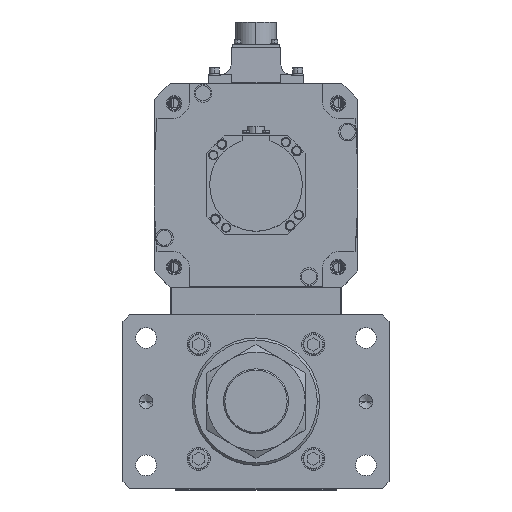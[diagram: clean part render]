
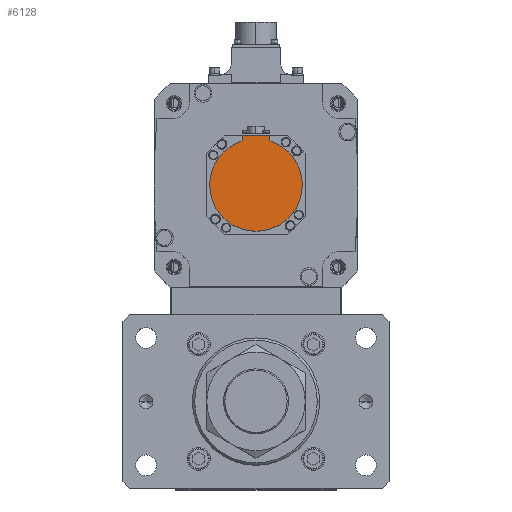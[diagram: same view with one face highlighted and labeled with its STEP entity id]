
A CAD part, top view. The second image highlights one B-rep face of the part: STEP entity #6128.
In plain terms, the highlighted planar face has unit normal (0, 0, 1) as drawn and (0, 0, -1) by its records, which use the part's own axes.
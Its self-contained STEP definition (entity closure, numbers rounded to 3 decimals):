
#216 = ORIENTED_EDGE ( 'NONE', *, *, #18827, .T. ) ;
#450 = VECTOR ( 'NONE', #40993, 1000. ) ;
#2014 = VERTEX_POINT ( 'NONE', #12677 ) ;
#2485 = LINE ( 'NONE', #6009, #25525 ) ;
#2775 = EDGE_CURVE ( 'NONE', #2014, #44889, #30622, .T. ) ;
#3469 = DIRECTION ( 'NONE',  ( 1., 0., 0. ) ) ;
#6009 = CARTESIAN_POINT ( 'NONE',  ( -12., -40.329, -162.5 ) ) ;
#6128 = ADVANCED_FACE ( 'NONE', ( #44913 ), #12564, .F. ) ;
#7033 = CIRCLE ( 'NONE', #52591, 40. ) ;
#8387 = EDGE_LOOP ( 'NONE', ( #216, #26194, #18122, #12434, #51585, #26013 ) ) ;
#10179 = AXIS2_PLACEMENT_3D ( 'NONE', #34629, #46703, #25870 ) ;
#10316 = VERTEX_POINT ( 'NONE', #22829 ) ;
#10941 = VERTEX_POINT ( 'NONE', #38686 ) ;
#11963 = DIRECTION ( 'NONE',  ( 0., 0., 1. ) ) ;
#12434 = ORIENTED_EDGE ( 'NONE', *, *, #45561, .F. ) ;
#12564 = PLANE ( 'NONE',  #42657 ) ;
#12677 = CARTESIAN_POINT ( 'NONE',  ( 12., -42.5, -162.5 ) ) ;
#12731 = CIRCLE ( 'NONE', #10179, 40. ) ;
#15619 = CARTESIAN_POINT ( 'NONE',  ( 0., -1.249, -162.5 ) ) ;
#17269 = AXIS2_PLACEMENT_3D ( 'NONE', #36492, #11963, #40575 ) ;
#18122 = ORIENTED_EDGE ( 'NONE', *, *, #46152, .F. ) ;
#18325 = DIRECTION ( 'NONE',  ( 0., 1., 0. ) ) ;
#18827 = EDGE_CURVE ( 'NONE', #44889, #10316, #2485, .T. ) ;
#19532 = EDGE_CURVE ( 'NONE', #10941, #10316, #48333, .T. ) ;
#22398 = DIRECTION ( 'NONE',  ( 0., 0., 1. ) ) ;
#22829 = CARTESIAN_POINT ( 'NONE',  ( -12., -38.158, -162.5 ) ) ;
#23014 = LINE ( 'NONE', #31668, #32055 ) ;
#25101 = DIRECTION ( 'NONE',  ( 0., 0., 1. ) ) ;
#25525 = VECTOR ( 'NONE', #18325, 1000. ) ;
#25870 = DIRECTION ( 'NONE',  ( 1., 0., 0. ) ) ;
#26013 = ORIENTED_EDGE ( 'NONE', *, *, #2775, .T. ) ;
#26107 = CARTESIAN_POINT ( 'NONE',  ( -12., -42.5, -162.5 ) ) ;
#26194 = ORIENTED_EDGE ( 'NONE', *, *, #19532, .F. ) ;
#27744 = VERTEX_POINT ( 'NONE', #45157 ) ;
#30622 = LINE ( 'NONE', #45406, #450 ) ;
#30676 = DIRECTION ( 'NONE',  ( 1., 0., 0. ) ) ;
#31668 = CARTESIAN_POINT ( 'NONE',  ( 12., -1.249, -162.5 ) ) ;
#32055 = VECTOR ( 'NONE', #51910, 1000. ) ;
#34053 = VERTEX_POINT ( 'NONE', #46543 ) ;
#34629 = CARTESIAN_POINT ( 'NONE',  ( 0., 0., -162.5 ) ) ;
#36492 = CARTESIAN_POINT ( 'NONE',  ( 0., 0., -162.5 ) ) ;
#38686 = CARTESIAN_POINT ( 'NONE',  ( -40., 0., -162.5 ) ) ;
#38843 = CARTESIAN_POINT ( 'NONE',  ( 0., 0., -162.5 ) ) ;
#40575 = DIRECTION ( 'NONE',  ( 1., 0., 0. ) ) ;
#40993 = DIRECTION ( 'NONE',  ( -1., 0., 0. ) ) ;
#42657 = AXIS2_PLACEMENT_3D ( 'NONE', #15619, #25101, #3469 ) ;
#44889 = VERTEX_POINT ( 'NONE', #26107 ) ;
#44913 = FACE_OUTER_BOUND ( 'NONE', #8387, .T. ) ;
#45157 = CARTESIAN_POINT ( 'NONE',  ( 40., 0., -162.5 ) ) ;
#45397 = EDGE_CURVE ( 'NONE', #2014, #34053, #23014, .T. ) ;
#45406 = CARTESIAN_POINT ( 'NONE',  ( 0., -42.5, -162.5 ) ) ;
#45561 = EDGE_CURVE ( 'NONE', #34053, #27744, #12731, .T. ) ;
#46152 = EDGE_CURVE ( 'NONE', #27744, #10941, #7033, .T. ) ;
#46543 = CARTESIAN_POINT ( 'NONE',  ( 12., -38.158, -162.5 ) ) ;
#46703 = DIRECTION ( 'NONE',  ( 0., 0., 1. ) ) ;
#48333 = CIRCLE ( 'NONE', #17269, 40. ) ;
#51585 = ORIENTED_EDGE ( 'NONE', *, *, #45397, .F. ) ;
#51910 = DIRECTION ( 'NONE',  ( 0., 1., 0. ) ) ;
#52591 = AXIS2_PLACEMENT_3D ( 'NONE', #38843, #22398, #30676 ) ;
